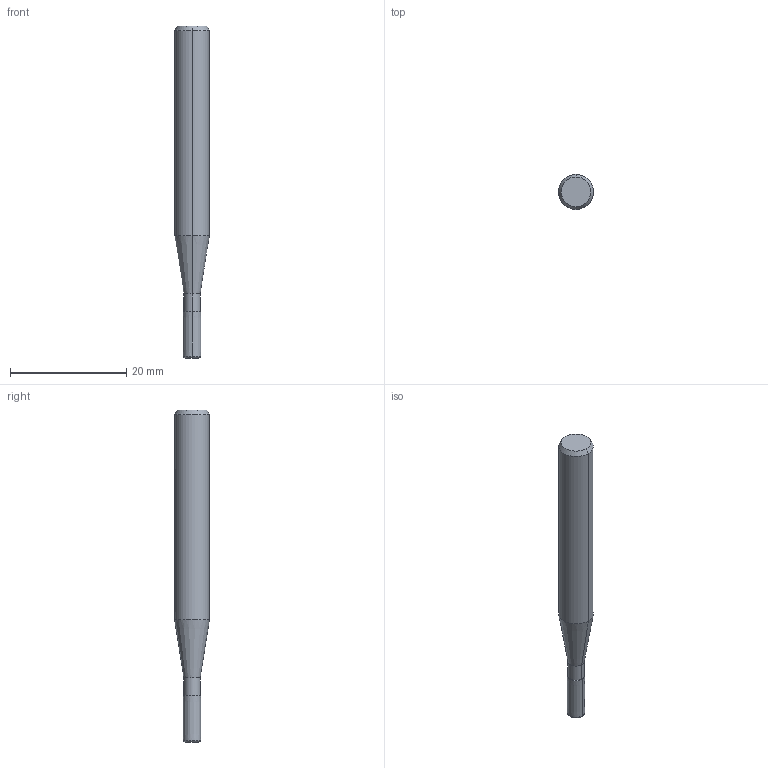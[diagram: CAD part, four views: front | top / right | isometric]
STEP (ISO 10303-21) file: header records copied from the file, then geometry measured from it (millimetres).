
FILE_DESCRIPTION(('no description'),'unknown implementation level');
FILE_NAME('solidC2RP7Y_28HfThl0pwd06_PNgpcw_1.STP',' ',('CIMSOURCE GmbH'),('CADClick - KiM GmbH - www.kimweb.de'),'unknown preprocess','ACIS','unknown authorization');
FILE_SCHEMA(('automotive_design'));
Length unit declared in the file: millimetre
Products named in the file (2): 1; 2
Bounding box: 6 x 6 x 57 mm (x, y, z)
Volume: 1248 mm3; surface area: 961.8 mm2
Topology: 2 solids, 2 shells, 31 faces, 75 edges, 48 vertices
Faces by surface type: plane 12, cylinder 11, cone 6, torus 2
Entity records: 2029 total; most frequent: CARTESIAN_POINT 375, DIRECTION 162, STYLED_ITEM 156, PRESENTATION_STYLE_ASSIGNMENT 156, COLOUR_RGB 156, ORIENTED_EDGE 150, EDGE_CURVE 75, CURVE_STYLE 75
